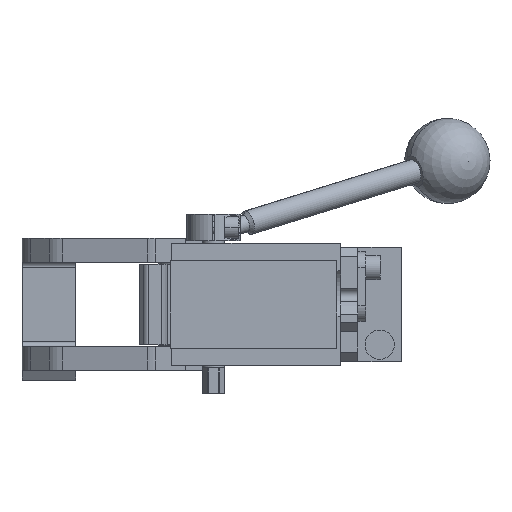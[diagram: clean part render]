
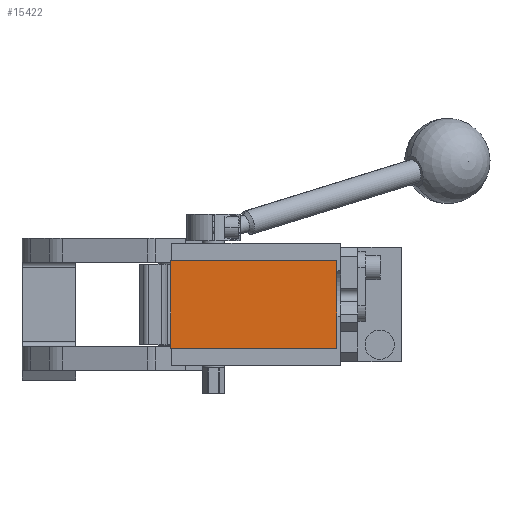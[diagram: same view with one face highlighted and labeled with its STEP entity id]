
A CAD part, front view. The second image highlights one B-rep face of the part: STEP entity #15422.
In plain terms, the highlighted planar face has unit normal (0, -1, 0).
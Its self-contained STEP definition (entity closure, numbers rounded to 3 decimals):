
#543 = DIRECTION ( 'NONE',  ( 1., 0., 0. ) ) ;
#601 = EDGE_CURVE ( 'NONE', #15370, #10417, #5369, .T. ) ;
#673 = ORIENTED_EDGE ( 'NONE', *, *, #1135, .T. ) ;
#1011 = CARTESIAN_POINT ( 'NONE',  ( 62., -233., 18. ) ) ;
#1135 = EDGE_CURVE ( 'NONE', #11753, #6464, #11201, .T. ) ;
#1741 = EDGE_CURVE ( 'NONE', #10417, #11753, #3872, .T. ) ;
#2029 = ORIENTED_EDGE ( 'NONE', *, *, #4199, .T. ) ;
#2077 = FACE_OUTER_BOUND ( 'NONE', #13372, .T. ) ;
#2162 = PLANE ( 'NONE',  #7325 ) ;
#2454 = CARTESIAN_POINT ( 'NONE',  ( -6., -233., 18. ) ) ;
#2634 = CARTESIAN_POINT ( 'NONE',  ( 62., -233., -18. ) ) ;
#3451 = CARTESIAN_POINT ( 'NONE',  ( -6., -233., 18. ) ) ;
#3872 = LINE ( 'NONE', #6239, #5046 ) ;
#4199 = EDGE_CURVE ( 'NONE', #6464, #15370, #7229, .T. ) ;
#4302 = ORIENTED_EDGE ( 'NONE', *, *, #601, .T. ) ;
#4359 = DIRECTION ( 'NONE',  ( 0., -1., 0. ) ) ;
#4708 = CARTESIAN_POINT ( 'NONE',  ( -6., -233., 18. ) ) ;
#5046 = VECTOR ( 'NONE', #12788, 1000. ) ;
#5369 = LINE ( 'NONE', #10350, #11494 ) ;
#5906 = CARTESIAN_POINT ( 'NONE',  ( 0., -233., 0. ) ) ;
#6239 = CARTESIAN_POINT ( 'NONE',  ( 62., -233., 18. ) ) ;
#6464 = VERTEX_POINT ( 'NONE', #3451 ) ;
#7229 = LINE ( 'NONE', #4708, #12371 ) ;
#7325 = AXIS2_PLACEMENT_3D ( 'NONE', #5906, #4359, #9517 ) ;
#7597 = ORIENTED_EDGE ( 'NONE', *, *, #1741, .T. ) ;
#9517 = DIRECTION ( 'NONE',  ( 0., 0., -1. ) ) ;
#9674 = VECTOR ( 'NONE', #13751, 1000. ) ;
#9773 = DIRECTION ( 'NONE',  ( 0., 0., -1. ) ) ;
#10350 = CARTESIAN_POINT ( 'NONE',  ( -6., -233., -18. ) ) ;
#10417 = VERTEX_POINT ( 'NONE', #2634 ) ;
#10747 = CARTESIAN_POINT ( 'NONE',  ( -6., -233., -18. ) ) ;
#11201 = LINE ( 'NONE', #2454, #9674 ) ;
#11494 = VECTOR ( 'NONE', #543, 1000. ) ;
#11753 = VERTEX_POINT ( 'NONE', #1011 ) ;
#12371 = VECTOR ( 'NONE', #9773, 1000. ) ;
#12788 = DIRECTION ( 'NONE',  ( 0., 0., 1. ) ) ;
#13372 = EDGE_LOOP ( 'NONE', ( #2029, #4302, #7597, #673 ) ) ;
#13751 = DIRECTION ( 'NONE',  ( -1., 0., 0. ) ) ;
#15370 = VERTEX_POINT ( 'NONE', #10747 ) ;
#15422 = ADVANCED_FACE ( 'NONE', ( #2077 ), #2162, .T. ) ;
